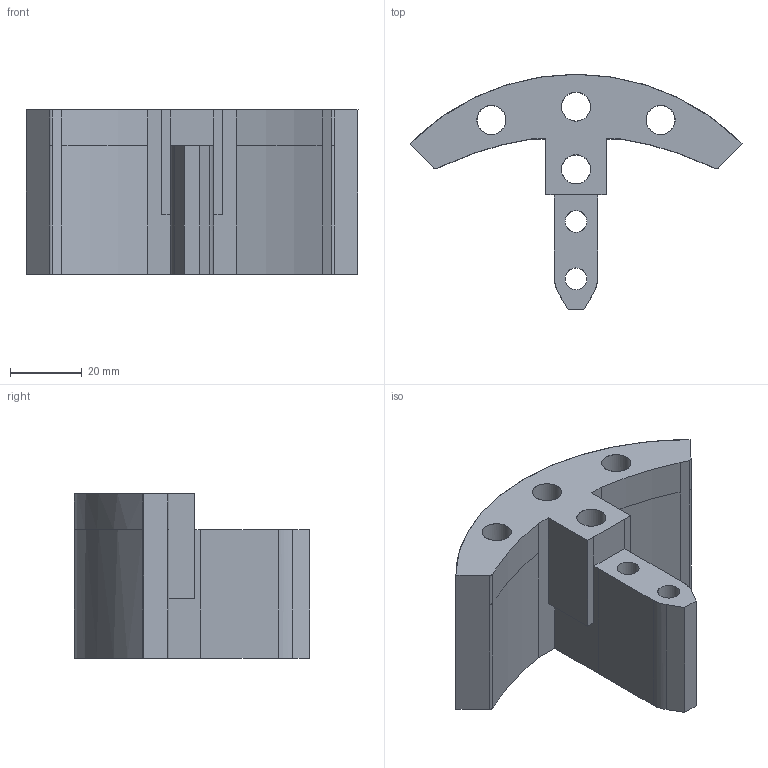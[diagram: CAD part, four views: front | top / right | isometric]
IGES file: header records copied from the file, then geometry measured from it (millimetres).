
Global section: file name: C:\Users\tprototype\Desktop\TeslaGen Project\TeslaGen-v1\CNC Parts\Support Block-Nylon 66\CAD Files\Support_Block-Nylon66.igs; native system: HarmonyWare Translators; preprocessor: HarmonyWare IGES v1.7.11; date: 20160106.071139; units: millimetre
Bounding box: 92.55 x 65.55 x 45.83 mm (x, y, z)
Surface area: 22340.7 mm2 (no closed solid volume)
Topology: 0 solids, 0 shells, 49 faces, 386 edges, 374 vertices
Faces by surface type: bspline 49
